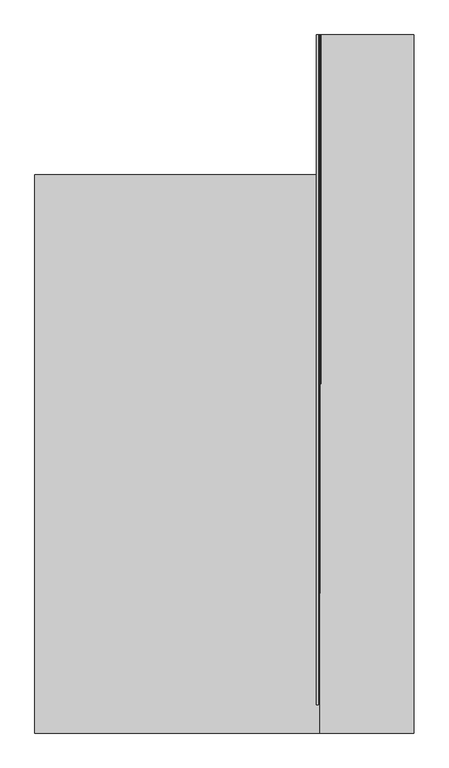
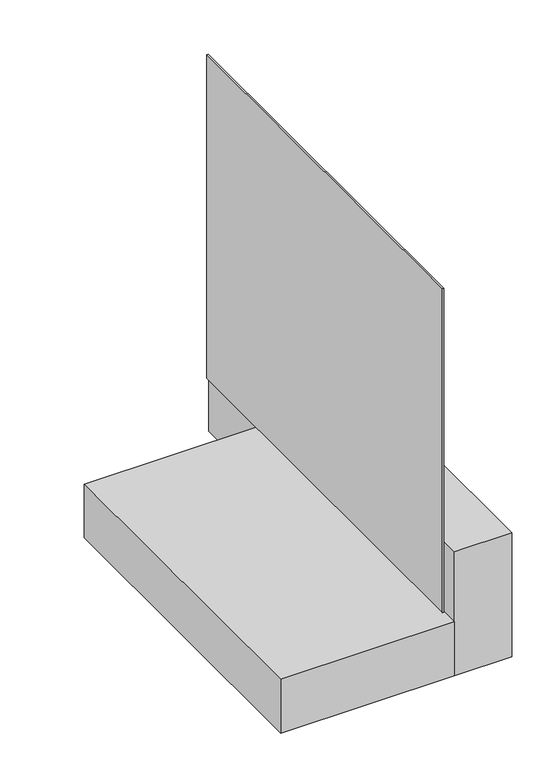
"""IFC4 building model written with IfcOpenShell, lengths in millimetres: proxy geometry, IMPER:IMPER:433934 : IMPER:IMPER:433934."""

from ifc_helpers import new_model, si_unit, point, frame, frame_2d, origin, place, context, project, spatial, polyline, circle_curve, trimmed, segment, composite_curve, outline, extrude, source, transform, mapped, element, save


def generic_models_f4a1198a(model_context):
    return source(origin(), model_context, "Body", "SweptSolid", [
        extrude(outline(polyline([(-351.9704105, 145.8700195), (-341.9704105, 145.8700195), (-341.9704105, -2733.09653), (-351.9704105, -2733.09653), (-351.9704105, 145.8700195)])), frame((0.0, 0.0, -2.523798), z_axis=(0.0, 0.0, 1.0), x_axis=(1.0, 0.0, 0.0)), (0.0, 0.0, 1.0), 2413.8946184),
        extrude(outline(polyline([(-336.9315394, -2854.1299805), (-1562.7804486, -2854.1299805), (-1562.7804486, -454.1299805), (-336.9315394, -454.1299805), (-336.9315394, -2854.1299805)])), frame((0.0, 0.0, -402.523798), z_axis=(0.0, 0.0, 1.0), x_axis=(1.0, 0.0, 0.0)), (0.0, 0.0, 1.0), 400.0),
        extrude(outline(polyline([(67.0408996, -2854.1299805), (-336.9315394, -2854.1299805), (-336.9315394, 145.8700195), (67.0408996, 145.8700195), (67.0408996, -2854.1299805)])), frame((0.0, 0.0, -402.523798), z_axis=(0.0, 0.0, 1.0), x_axis=(1.0, 0.0, 0.0)), (0.0, 0.0, 1.0), 923.3418813),
        extrude(outline(composite_curve([segment(polyline([(1063.6239853, -335.9591004), (-2.523798, -335.9591004)]), True, "CONTINUOUS"), segment(trimmed(circle_curve(frame_2d((-2.523798, -325.9591004)), 10.0), [point((-2.523798, -335.9591004))], [point((-2.523798, -315.9591004))], False, "CARTESIAN"), True, "CONTINUOUS"), segment(trimmed(circle_curve(frame_2d((-2.523798, -322.4800762)), 6.5209758), [point((-2.523798, -315.9591004))], [point((-2.523798, -329.001052))], False, "CARTESIAN"), True, "CONTINUOUS"), segment(trimmed(circle_curve(frame_2d((-2.523798, -325.7405641)), 3.2604879), [point((-2.523798, -329.001052))], [point((-2.523798, -322.4800762))], False, "CARTESIAN"), True, "CONTINUOUS"), segment(polyline([(-2.523798, -322.4800762), (-2.523798, -325.4800762)]), True, "CONTINUOUS"), segment(trimmed(circle_curve(frame_2d((-2.523798, -325.7405641)), 0.2604879), [point((-2.523798, -325.4800762))], [point((-2.523798, -326.001052))], True, "CARTESIAN"), True, "CONTINUOUS"), segment(trimmed(circle_curve(frame_2d((-2.523798, -322.4800762)), 3.5209758), [point((-2.523798, -326.001052))], [point((-2.523798, -318.9591004))], True, "CARTESIAN"), True, "CONTINUOUS"), segment(trimmed(circle_curve(frame_2d((-2.523798, -325.9591004)), 7.0), [point((-2.523798, -318.9591004))], [point((-2.523798, -332.9591004))], True, "CARTESIAN"), True, "CONTINUOUS"), segment(polyline([(-2.523798, -332.9591004), (1063.6239853, -332.9591004), (1063.6239853, -335.9591004)]), True, "CONTINUOUS")], self_intersect=False)), frame((0.0, -1354.1299805, 0.0), z_axis=(0.0, 1.0, 0.0), x_axis=(0.0, 0.0, 1.0)), (0.0, 0.0, 1.0), 1500.0),
        extrude(outline(polyline([(-340.9315394, 145.8700195), (-340.9315394, -2554.1299805), (-341.9704105, -2554.1299805), (-341.9704105, 145.8700195), (-340.9315394, 145.8700195)])), frame((0.0, 0.0, -2.523798), z_axis=(0.0, 0.0, 1.0), x_axis=(1.0, 0.0, 0.0)), (0.0, 0.0, 1.0), 2212.34794),
        extrude(outline(polyline([(-336.9315394, 145.8700195), (-336.9315394, -2254.1299805), (-340.9315394, -2254.1299805), (-340.9315394, 145.8700195), (-336.9315394, 145.8700195)])), frame((0.0, 0.0, -2.523798), z_axis=(0.0, 0.0, 1.0), x_axis=(1.0, 0.0, 0.0)), (0.0, 0.0, 1.0), 1965.7083629),
        extrude(outline(polyline([(-335.9591004, 145.8700195), (-335.9591004, -1754.1299805), (-336.9315394, -1754.1299805), (-336.9315394, 145.8700195), (-335.9591004, 145.8700195)])), frame((0.0, 0.0, -2.523798), z_axis=(0.0, 0.0, 1.0), x_axis=(1.0, 0.0, 0.0)), (0.0, 0.0, 1.0), 1548.1528029),
    ])


if __name__ == "__main__":
    model = new_model("IFC4")
    model_context = context("Model", 3, world=origin())
    ifc_project = project(units=[si_unit("LENGTHUNIT", "METRE", prefix="MILLI")], contexts=[model_context])
    site = spatial("IfcSite", under=ifc_project)
    building = spatial("IfcBuilding", under=site)
    placement = place(None, origin())
    generic_models_shape = generic_models_f4a1198a(model_context)
    element("IfcBuildingElementProxy", 1, Name="IMPER:IMPER:433934 : IMPER:IMPER:433934", ObjectType="IMPER:IMPER:433934 : IMPER:IMPER:433934", at=placement, inside=building, context=model_context, shape_type="MappedRepresentation", body=[
        mapped(generic_models_shape, transform((0.0, 0.0, 0.0), x_axis=(1.0, 0.0, 0.0), y_axis=(0.0, 1.0, 0.0), z_axis=(0.0, 0.0, 1.0))),
    ])
    save(model, "model.ifc")
